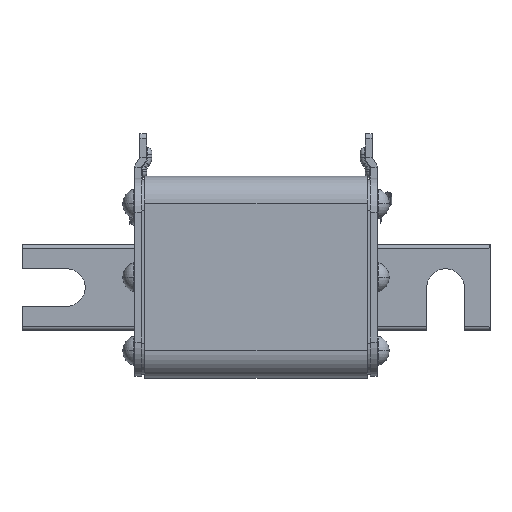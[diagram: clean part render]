
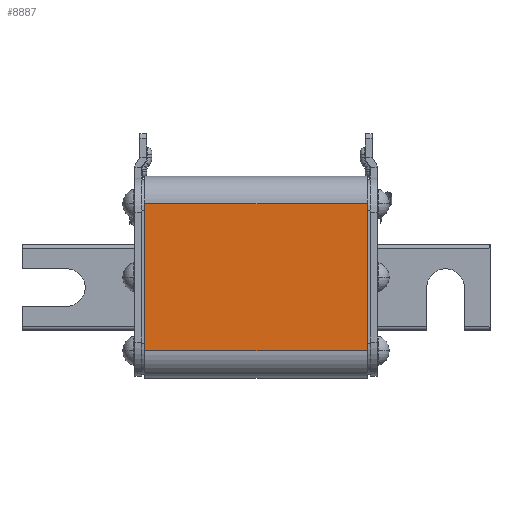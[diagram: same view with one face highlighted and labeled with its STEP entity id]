
A CAD part, top view. The second image highlights one B-rep face of the part: STEP entity #8887.
In plain terms, the highlighted planar face has unit normal (0, 0, 1).
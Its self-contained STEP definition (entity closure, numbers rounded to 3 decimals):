
#512 = FACE_OUTER_BOUND ( 'NONE', #5656, .T. ) ;
#712 = AXIS2_PLACEMENT_3D ( 'NONE', #9493, #11379, #2273 ) ;
#1575 = CARTESIAN_POINT ( 'NONE',  ( 33., -21.5, 29.5 ) ) ;
#2273 = DIRECTION ( 'NONE',  ( 0., -1., 0. ) ) ;
#2486 = EDGE_CURVE ( 'NONE', #16296, #18494, #15737, .T. ) ;
#4011 = CARTESIAN_POINT ( 'NONE',  ( 33., 21.5, 29.5 ) ) ;
#5656 = EDGE_LOOP ( 'NONE', ( #13199, #22617, #6105, #14896 ) ) ;
#6105 = ORIENTED_EDGE ( 'NONE', *, *, #22324, .F. ) ;
#6135 = VECTOR ( 'NONE', #21154, 1000. ) ;
#6465 = EDGE_CURVE ( 'NONE', #11434, #18494, #11084, .T. ) ;
#7562 = VECTOR ( 'NONE', #10187, 1000. ) ;
#8135 = CARTESIAN_POINT ( 'NONE',  ( -32., -21.5, 29.5 ) ) ;
#8649 = VECTOR ( 'NONE', #15379, 1000. ) ;
#8887 = ADVANCED_FACE ( 'NONE', ( #512 ), #22314, .F. ) ;
#9493 = CARTESIAN_POINT ( 'NONE',  ( -32., -21.5, 29.5 ) ) ;
#9661 = VERTEX_POINT ( 'NONE', #16365 ) ;
#10187 = DIRECTION ( 'NONE',  ( 0., 1., 0. ) ) ;
#10960 = LINE ( 'NONE', #19066, #7562 ) ;
#11084 = LINE ( 'NONE', #18231, #18939 ) ;
#11206 = LINE ( 'NONE', #8135, #8649 ) ;
#11379 = DIRECTION ( 'NONE',  ( 0., 0., -1. ) ) ;
#11434 = VERTEX_POINT ( 'NONE', #13329 ) ;
#13199 = ORIENTED_EDGE ( 'NONE', *, *, #2486, .T. ) ;
#13329 = CARTESIAN_POINT ( 'NONE',  ( -32., 21.5, 29.5 ) ) ;
#13783 = EDGE_CURVE ( 'NONE', #9661, #16296, #11206, .T. ) ;
#14740 = CARTESIAN_POINT ( 'NONE',  ( 33., -21.5, 29.5 ) ) ;
#14896 = ORIENTED_EDGE ( 'NONE', *, *, #13783, .T. ) ;
#15379 = DIRECTION ( 'NONE',  ( 1., 0., 0. ) ) ;
#15737 = LINE ( 'NONE', #1575, #6135 ) ;
#16296 = VERTEX_POINT ( 'NONE', #14740 ) ;
#16365 = CARTESIAN_POINT ( 'NONE',  ( -32., -21.5, 29.5 ) ) ;
#18231 = CARTESIAN_POINT ( 'NONE',  ( -32., 21.5, 29.5 ) ) ;
#18494 = VERTEX_POINT ( 'NONE', #4011 ) ;
#18939 = VECTOR ( 'NONE', #21868, 1000. ) ;
#19066 = CARTESIAN_POINT ( 'NONE',  ( -32., -21.5, 29.5 ) ) ;
#21154 = DIRECTION ( 'NONE',  ( 0., 1., 0. ) ) ;
#21868 = DIRECTION ( 'NONE',  ( 1., 0., 0. ) ) ;
#22314 = PLANE ( 'NONE',  #712 ) ;
#22324 = EDGE_CURVE ( 'NONE', #9661, #11434, #10960, .T. ) ;
#22617 = ORIENTED_EDGE ( 'NONE', *, *, #6465, .F. ) ;
